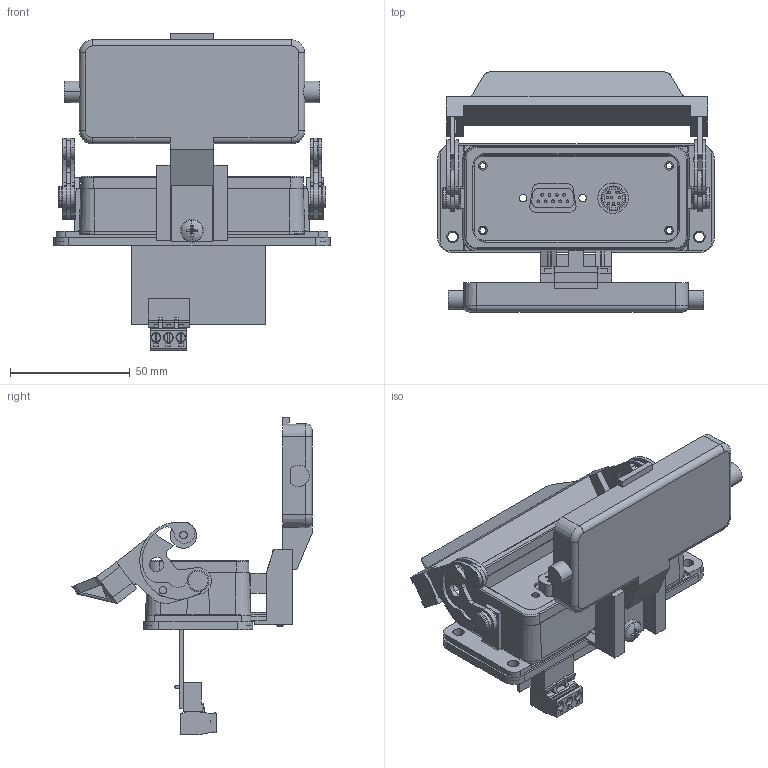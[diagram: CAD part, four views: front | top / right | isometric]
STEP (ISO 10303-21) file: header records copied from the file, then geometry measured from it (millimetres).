
FILE_DESCRIPTION (( 'STEP AP214' ), '1' );
FILE_NAME ('DH-DB9-8M-16LS.STEP', '2006-07-13T13:05:04', ( 'Mencom User' ), ( 'Mencom Corporation' ), 'SwSTEP 2.0', 'SolidWorks 2006104', '' );
FILE_SCHEMA (( 'AUTOMOTIVE_DESIGN' ));
Length unit declared in the file: inch
Products named in the file (1): DH-DB9-8M-16LS
Bounding box: 115.5 x 100.28 x 132.64 mm (x, y, z)
Surface area: 75796.8 mm2 (no closed solid volume)
Topology: 0 solids, 66 shells, 917 faces, 2948 edges, 2068 vertices
Faces by surface type: plane 517, cylinder 341, torus 41, cone 12, bspline 4, sphere 2
Entity records: 45689 total; most frequent: CARTESIAN_POINT 7428, DIRECTION 5632, ORIENTED_EDGE 4948, EDGE_CURVE 2948, VERTEX_POINT 2068, VECTOR 1934, LINE 1934, AXIS2_PLACEMENT_3D 1849
